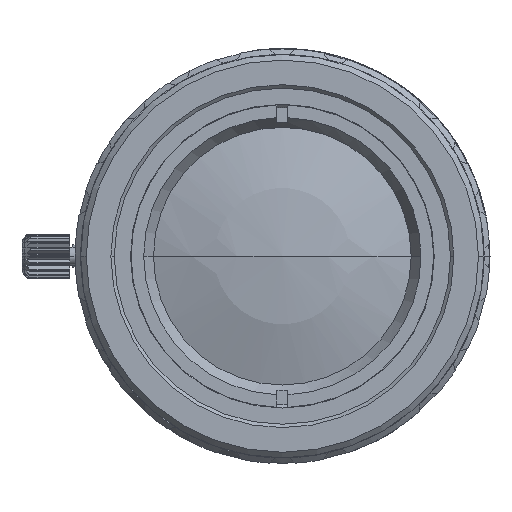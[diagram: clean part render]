
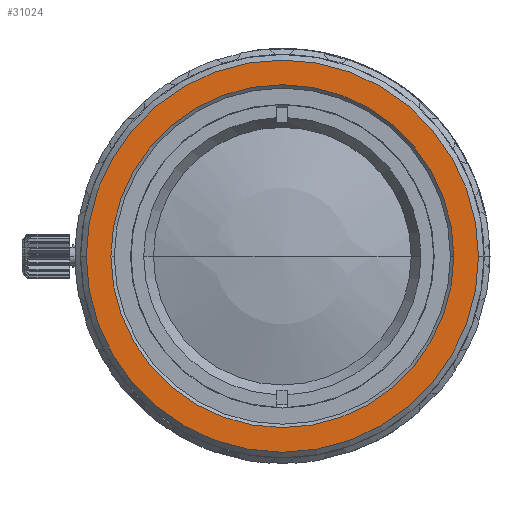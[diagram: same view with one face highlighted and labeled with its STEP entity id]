
A CAD part, left-side view. The second image highlights one B-rep face of the part: STEP entity #31024.
In plain terms, the highlighted planar face has unit normal (-1, 0, 0).
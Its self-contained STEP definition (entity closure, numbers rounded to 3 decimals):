
#5967=CARTESIAN_POINT('',(-2.152,0.,0.));
#5968=DIRECTION('',(1.,0.,0.));
#5969=DIRECTION('',(0.,-1.,0.));
#5970=AXIS2_PLACEMENT_3D('',#5967,#5968,#5969);
#5972=CARTESIAN_POINT('',(-2.152,0.,0.));
#5973=DIRECTION('',(1.,0.,0.));
#5974=DIRECTION('',(0.,1.,0.));
#5975=AXIS2_PLACEMENT_3D('',#5972,#5973,#5974);
#5977=CARTESIAN_POINT('',(-2.152,0.,0.));
#5978=DIRECTION('',(-1.,0.,0.));
#5979=DIRECTION('',(0.,-1.,0.));
#5980=AXIS2_PLACEMENT_3D('',#5977,#5978,#5979);
#5982=CARTESIAN_POINT('',(-2.152,0.,0.));
#5983=DIRECTION('',(-1.,0.,0.));
#5984=DIRECTION('',(0.,0.,1.));
#5985=AXIS2_PLACEMENT_3D('',#5982,#5983,#5984);
#5987=CARTESIAN_POINT('',(-2.152,0.,0.));
#5988=DIRECTION('',(-1.,0.,0.));
#5989=DIRECTION('',(0.,1.,0.));
#5990=AXIS2_PLACEMENT_3D('',#5987,#5988,#5989);
#5992=CARTESIAN_POINT('',(-2.152,0.,0.));
#5993=DIRECTION('',(-1.,0.,0.));
#5994=DIRECTION('',(0.,0.,-1.));
#5995=AXIS2_PLACEMENT_3D('',#5992,#5993,#5994);
#25313=CARTESIAN_POINT('',(-2.152,17.5,0.));
#25314=VERTEX_POINT('',#25313);
#25315=CARTESIAN_POINT('',(-2.152,-17.5,0.));
#25316=VERTEX_POINT('',#25315);
#25317=CARTESIAN_POINT('',(-2.152,-15.3,0.));
#25318=CARTESIAN_POINT('',(-2.152,0.,15.3));
#25319=VERTEX_POINT('',#25317);
#25320=VERTEX_POINT('',#25318);
#25321=CARTESIAN_POINT('',(-2.152,15.3,0.));
#25322=VERTEX_POINT('',#25321);
#25323=CARTESIAN_POINT('',(-2.152,0.,-15.3));
#25324=VERTEX_POINT('',#25323);
#31005=CARTESIAN_POINT('',(-2.152,0.,0.));
#31006=DIRECTION('',(1.,0.,0.));
#31007=DIRECTION('',(0.,-1.,0.));
#31008=AXIS2_PLACEMENT_3D('',#31005,#31006,#31007);
#31009=PLANE('',#31008);
#31010=ORIENTED_EDGE('',*,*,#30984,.T.);
#31011=ORIENTED_EDGE('',*,*,#31000,.T.);
#31012=EDGE_LOOP('',(#31010,#31011));
#31013=FACE_OUTER_BOUND('',#31012,.F.);
#31015=ORIENTED_EDGE('',*,*,#31014,.T.);
#31017=ORIENTED_EDGE('',*,*,#31016,.T.);
#31019=ORIENTED_EDGE('',*,*,#31018,.T.);
#31021=ORIENTED_EDGE('',*,*,#31020,.T.);
#31022=EDGE_LOOP('',(#31015,#31017,#31019,#31021));
#31023=FACE_BOUND('',#31022,.F.);
#5971=CIRCLE('',#5970,17.5);
#5976=CIRCLE('',#5975,17.5);
#5981=CIRCLE('',#5980,15.3);
#5986=CIRCLE('',#5985,15.3);
#5991=CIRCLE('',#5990,15.3);
#5996=CIRCLE('',#5995,15.3);
#30984=EDGE_CURVE('',#25316,#25314,#5971,.T.);
#31000=EDGE_CURVE('',#25314,#25316,#5976,.T.);
#31014=EDGE_CURVE('',#25319,#25320,#5981,.T.);
#31016=EDGE_CURVE('',#25320,#25322,#5986,.T.);
#31018=EDGE_CURVE('',#25322,#25324,#5991,.T.);
#31020=EDGE_CURVE('',#25324,#25319,#5996,.T.);
#31024=ADVANCED_FACE('',(#31013,#31023),#31009,.F.);
